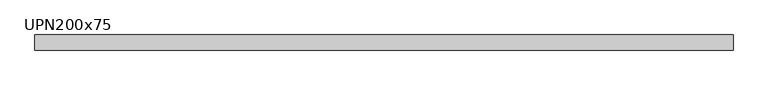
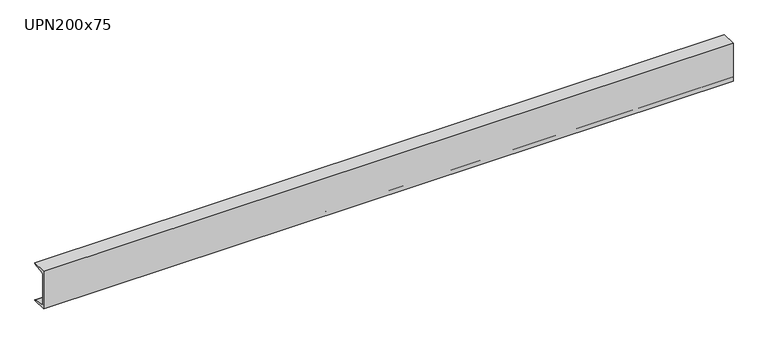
"""IFC4 building model written with IfcOpenShell, lengths in millimetres: beam geometry, M_MC Shapes : UPN200x75."""

import ifcopenshell
import ifcopenshell.guid

model = None  # the IFC model being written
_history = None  # IfcOwnerHistory: only IFC2X3 demands one
_inside = {}  # id of a spatial element -> (the spatial element, [elements in it])
_under = {}  # id of a project, library or spatial element -> (it, [spatial elements below it])
_declared = {}  # id of a project -> (the project, [libraries it declares])
_typed = {}  # id of a type object -> (the type object, [elements of that type])
_made_of = {}  # id of a material, layer set ... -> (it, [elements and type objects made of it])


def new_model(schema):
    """Start an empty IFC model of exactly this schema.

    Asked for "IFC4X3", IfcOpenShell would pick the latest addendum, in which some entities
    have other attributes; the version numbers below select the first issue.
    IFC2X3 requires an IfcOwnerHistory on every rooted entity: one is made here for all.
    """
    global model, _history
    if schema == "IFC4X3":
        model = ifcopenshell.file(schema_version=(4, 3, 0, 0))
    else:
        model = ifcopenshell.file(schema=schema)
    _inside.clear()
    _under.clear()
    _declared.clear()
    _typed.clear()
    _made_of.clear()
    _history = None
    if model.schema == "IFC2X3":
        org = make("IfcOrganization", Name="unknown")
        user = make(
            "IfcPersonAndOrganization",
            ThePerson=make("IfcPerson", FamilyName="unknown"),
            TheOrganization=org,
        )
        app = make(
            "IfcApplication",
            ApplicationDeveloper=org,
            Version="unknown",
            ApplicationFullName="unknown",
            ApplicationIdentifier="unknown",
        )
        _history = make(
            "IfcOwnerHistory",
            OwningUser=user,
            OwningApplication=app,
            ChangeAction="ADDED",
            CreationDate=0,
        )
    return model


def make(cls, **values):
    """One entity of the class cls with the attributes given. An attribute that is None is left unset."""
    return model.create_entity(
        cls, **{name: value for name, value in values.items() if value is not None}
    )


def rooted(cls, **values):
    """An entity with a GlobalId (a new one), such as an element, a storey or a relation."""
    return make(cls, GlobalId=ifcopenshell.guid.new(), OwnerHistory=_history, **values)


def si_unit(unit_type, name, prefix=None):
    """IfcSIUnit, for example si_unit("LENGTHUNIT", "METRE", prefix="MILLI")."""
    return make("IfcSIUnit", UnitType=unit_type, Prefix=prefix, Name=name)


def assignment(units):
    """IfcUnitAssignment: the units of a project."""
    return None if units is None else make("IfcUnitAssignment", Units=units)


def point(xyz):
    """IfcCartesianPoint."""
    return None if xyz is None else make("IfcCartesianPoint", Coordinates=xyz)


def direction(xyz):
    """IfcDirection."""
    return None if xyz is None else make("IfcDirection", DirectionRatios=xyz)


def frame(location, z_axis=None, x_axis=None):
    """IfcAxis2Placement3D, a coordinate frame: its origin and axes. An axis left out is left unset."""
    return make(
        "IfcAxis2Placement3D",
        Location=point(location),
        Axis=direction(z_axis),
        RefDirection=direction(x_axis),
    )


def frame_2d(location, x_axis=None):
    """IfcAxis2Placement2D, a coordinate frame in the plane: its origin and x axis."""
    return make(
        "IfcAxis2Placement2D", Location=point(location), RefDirection=direction(x_axis)
    )


def origin():
    """The frame at (0, 0, 0) with its axes left unset."""
    return frame((0.0, 0.0, 0.0))


def place(relative_to, where):
    """IfcLocalPlacement: puts the frame where relative to a parent placement (None: the world)."""
    return make(
        "IfcLocalPlacement", PlacementRelTo=relative_to, RelativePlacement=where
    )


def context(
    kind, dimensions, precision=None, world=None, true_north=None, identifier=None
):
    """IfcGeometricRepresentationContext, for example the 3D "Model" context."""
    return make(
        "IfcGeometricRepresentationContext",
        ContextIdentifier=identifier,
        ContextType=kind,
        CoordinateSpaceDimension=dimensions,
        Precision=precision,
        WorldCoordinateSystem=world,
        TrueNorth=true_north,
    )


def project(units=None, contexts=None):
    """IfcProject with its units and contexts."""
    return rooted(
        "IfcProject",
        Name="project",
        RepresentationContexts=contexts,
        UnitsInContext=assignment(units),
    )


def spatial(cls, under=None, at=None, **own):
    """A site, building, storey or space (cls), placed at a placement, below another one or the project."""
    s = rooted(cls, ObjectPlacement=at, **own)
    if under is not None:
        _under.setdefault(under.id(), (under, []))[1].append(s)
    return s


def polyline(points):
    """IfcPolyline through the points."""
    return make("IfcPolyline", Points=[point(p) for p in points])


def circle_curve(where, radius):
    """IfcCircle in the frame where."""
    return make("IfcCircle", Position=where, Radius=radius)


def trimmed(basis, trim1, trim2, sense, master):
    """IfcTrimmedCurve: the piece of a basis curve between two trims."""
    return make(
        "IfcTrimmedCurve",
        BasisCurve=basis,
        Trim1=trim1,
        Trim2=trim2,
        SenseAgreement=sense,
        MasterRepresentation=master,
    )


def segment(curve, same_sense, transition):
    """IfcCompositeCurveSegment."""
    return make(
        "IfcCompositeCurveSegment",
        Transition=transition,
        SameSense=same_sense,
        ParentCurve=curve,
    )


def composite_curve(segments, self_intersect=None):
    """IfcCompositeCurve: segments joined end to end."""
    return make("IfcCompositeCurve", Segments=segments, SelfIntersect=self_intersect)


def outline(outer, holes=None, kind="AREA"):
    """IfcArbitraryClosedProfileDef: a profile drawn as a closed curve; with holes, ...WithVoids."""
    if holes is None:
        return make("IfcArbitraryClosedProfileDef", ProfileType=kind, OuterCurve=outer)
    return make(
        "IfcArbitraryProfileDefWithVoids",
        ProfileType=kind,
        OuterCurve=outer,
        InnerCurves=holes,
    )


def extrude(swept, where, along, depth):
    """IfcExtrudedAreaSolid: the profile swept, set in the frame where, extruded along a direction by depth."""
    return make(
        "IfcExtrudedAreaSolid",
        SweptArea=swept,
        Position=where,
        ExtrudedDirection=direction(along),
        Depth=depth,
    )


def shape(context_of_items, identifier, shape_type, items):
    """IfcShapeRepresentation: the items that make up one representation, for example the "Body"."""
    return make(
        "IfcShapeRepresentation",
        ContextOfItems=context_of_items,
        RepresentationIdentifier=identifier,
        RepresentationType=shape_type,
        Items=items,
    )


def source(mapping_origin, context_of_items, identifier, shape_type, items):
    """IfcRepresentationMap: a shape defined once, which mapped items show again and again."""
    return make(
        "IfcRepresentationMap",
        MappingOrigin=mapping_origin,
        MappedRepresentation=shape(context_of_items, identifier, shape_type, items),
    )


def transform(
    local_origin,
    x_axis=None,
    y_axis=None,
    z_axis=None,
    scale=None,
    scale2=None,
    scale3=None,
    uniform=True,
):
    """IfcCartesianTransformationOperator3D, or its non-uniform kind. x_axis, y_axis, z_axis: its Axis1, 2, 3."""
    if uniform:
        return make(
            "IfcCartesianTransformationOperator3D",
            Axis1=direction(x_axis),
            Axis2=direction(y_axis),
            LocalOrigin=point(local_origin),
            Scale=scale,
            Axis3=direction(z_axis),
        )
    return make(
        "IfcCartesianTransformationOperator3DnonUniform",
        Axis1=direction(x_axis),
        Axis2=direction(y_axis),
        LocalOrigin=point(local_origin),
        Scale=scale,
        Axis3=direction(z_axis),
        Scale2=scale2,
        Scale3=scale3,
    )


def mapped(mapping_source, mapping_target):
    """IfcMappedItem: shows the shape of a source again, moved by a transform."""
    return make(
        "IfcMappedItem", MappingSource=mapping_source, MappingTarget=mapping_target
    )


def made_of(thing, what):
    """Note that an element or type object is made of a material, layer set ...; save() writes the relation."""
    if what is not None:
        _made_of.setdefault(what.id(), (what, []))[1].append(thing)
    return thing


def element(
    cls,
    number,
    at=None,
    inside=None,
    cuts=None,
    type_object=None,
    material=None,
    context=None,
    identifier="Body",
    shape_type=None,
    held_by="IfcProductDefinitionShape",
    body=None,
    shapes=None,
    **own,
):
    """One element of the class cls, such as IfcWall. Its Tag is "e" and its number.

    at: its placement. inside: the storey or other place that contains it. cuts: it is an
    opening in that element (IfcRelVoidsElement). A single representation is given by context,
    identifier, shape_type and body (its items); several are given by shapes. held_by: the class
    of the entity that holds the representations. save() writes the other relations.
    """
    e = rooted(cls, Tag="e%d" % number, ObjectPlacement=at, **own)
    if body is not None:
        shapes = [shape(context, identifier, shape_type, body)]
    if shapes is not None:
        e.Representation = make(held_by, Representations=shapes)
    if inside is not None:
        _inside.setdefault(inside.id(), (inside, []))[1].append(e)
    if cuts is not None:
        rooted(
            "IfcRelVoidsElement", RelatingBuildingElement=cuts, RelatedOpeningElement=e
        )
    if type_object is not None:
        _typed.setdefault(type_object.id(), (type_object, []))[1].append(e)
    return made_of(e, material)


def aggregate(whole, parts):
    """IfcRelAggregates: a whole, such as a stair, and the parts it consists of."""
    return rooted("IfcRelAggregates", RelatingObject=whole, RelatedObjects=parts)


def save(model, path):
    """Write the relations noted so far, then the file.

    IfcRelAggregates (storeys below a building ...), IfcRelContainedInSpatialStructure (elements
    in a storey), IfcRelDefinesByType, IfcRelAssociatesMaterial and IfcRelDeclares: one each for
    every whole, place, type object, material and project.
    """
    for whole, parts in _under.values():
        aggregate(whole, parts)
    for where, things in _inside.values():
        rooted(
            "IfcRelContainedInSpatialStructure",
            RelatedElements=things,
            RelatingStructure=where,
        )
    for kind, things in _typed.values():
        rooted("IfcRelDefinesByType", RelatedObjects=things, RelatingType=kind)
    for what, things in _made_of.values():
        rooted("IfcRelAssociatesMaterial", RelatedObjects=things, RelatingMaterial=what)
    for by, libraries in _declared.values():
        rooted("IfcRelDeclares", RelatingContext=by, RelatedDefinitions=libraries)
    model.write(path)


def upn200x75_e20365c8(model_context):
    return source(origin(), model_context, "Body", "SweptSolid", [
        extrude(outline(composite_curve([segment(polyline([(-10.9, 100.0), (64.1, 100.0), (64.1, 99.0253247)]), True, "CONTINUOUS"), segment(trimmed(circle_curve(frame_2d((60.15, 99.0253247)), 3.95), [point((64.1, 99.0253247))], [point((60.7993773, 95.1290689))], False, "CARTESIAN"), True, "CONTINUOUS"), segment(polyline([(60.7993773, 95.1290689), (0.2512455, 85.0376935)]), True, "CONTINUOUS"), segment(trimmed(circle_curve(frame_2d((1.55, 77.2451819)), 7.9), [point((0.2512455, 85.0376935))], [point((-6.35, 77.2451819))], True, "CARTESIAN"), True, "CONTINUOUS"), segment(polyline([(-6.35, 77.2451819), (-6.35, -77.2451819)]), True, "CONTINUOUS"), segment(trimmed(circle_curve(frame_2d((1.55, -77.2451819)), 7.9), [point((-6.35, -77.2451819))], [point((0.2512455, -85.0376935))], True, "CARTESIAN"), True, "CONTINUOUS"), segment(polyline([(0.2512455, -85.0376935), (60.7993773, -95.1290689)]), True, "CONTINUOUS"), segment(trimmed(circle_curve(frame_2d((60.15, -99.0253247)), 3.95), [point((60.7993773, -95.1290689))], [point((64.1, -99.0253247))], False, "CARTESIAN"), True, "CONTINUOUS"), segment(polyline([(64.1, -99.0253247), (64.1, -100.0), (-10.9, -100.0), (-10.9, 100.0)]), True, "CONTINUOUS")], self_intersect=False)), frame((-1997.05, 0.0, 0.0), z_axis=(1.0, 0.0, 0.0), x_axis=(0.0, 1.0, 0.0)), (0.0, 0.0, 1.0), 3466.6),
    ])


if __name__ == "__main__":
    model = new_model("IFC4")
    model_context = context("Model", 3, world=origin())
    ifc_project = project(units=[si_unit("LENGTHUNIT", "METRE", prefix="MILLI")], contexts=[model_context])
    site = spatial("IfcSite", under=ifc_project)
    building = spatial("IfcBuilding", under=site)
    placement = place(None, origin())
    upn200x75_shape = upn200x75_e20365c8(model_context)
    element("IfcBeam", 1, ObjectType="M_MC Shapes : UPN200x75", at=placement, inside=building, context=model_context, shape_type="MappedRepresentation", body=[
        mapped(upn200x75_shape, transform((0.0, 0.0, 0.0), x_axis=(1.0, 0.0, 0.0), y_axis=(0.0, 1.0, 0.0), z_axis=(0.0, 0.0, 1.0))),
    ])
    save(model, "model.ifc")
